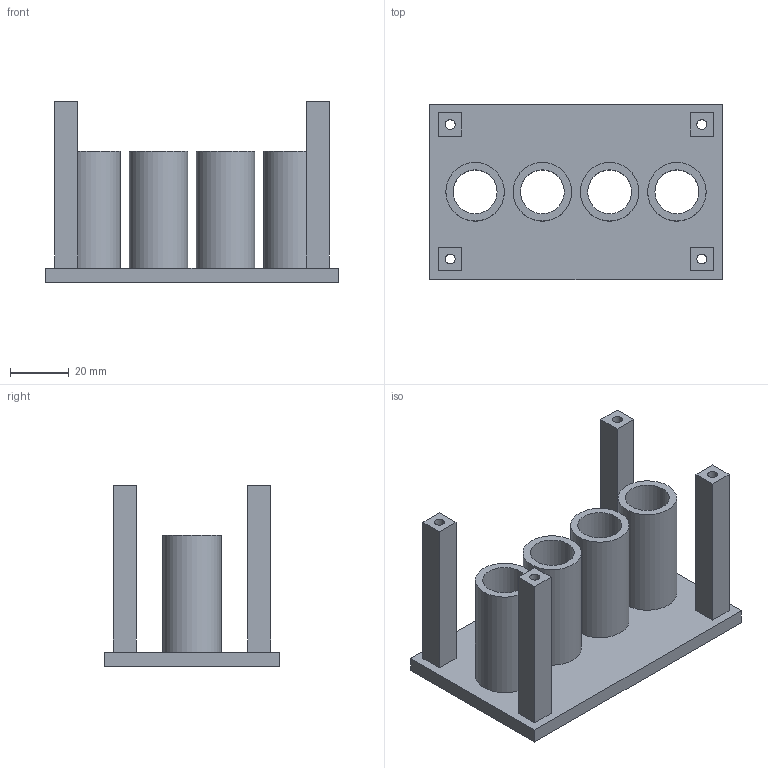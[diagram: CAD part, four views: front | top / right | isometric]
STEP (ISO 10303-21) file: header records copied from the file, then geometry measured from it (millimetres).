
FILE_DESCRIPTION(('Open CASCADE Model'),'2;1');
FILE_NAME('Open CASCADE Shape Model','2026-10-21T17:23:51',('Author'),( 'Open CASCADE'),'Open CASCADE STEP processor 7.9','Open CASCADE 7.9' ,'Unknown');
FILE_SCHEMA(('AUTOMOTIVE_DESIGN { 1 0 10303 214 1 1 1 1 }'));
Length unit declared in the file: millimetre
Products named in the file (1): Open CASCADE STEP translator 7.9 34
Bounding box: 100 x 60 x 62 mm (x, y, z)
Volume: 60698.8 mm3; surface area: 40488.8 mm2
Topology: 1 solids, 1 shells, 46 faces, 104 edges, 68 vertices
Faces by surface type: plane 30, cylinder 12, cone 4
Full cylindrical faces by diameter (mm): 3.4 x4, 15 x4, 20 x4
Entity records: 2726 total; most frequent: CARTESIAN_POINT 523, DIRECTION 418, LINE 260, VECTOR 260, ORIENTED_EDGE 208, PCURVE 208, DEFINITIONAL_REPRESENTATION 208, EDGE_CURVE 104
